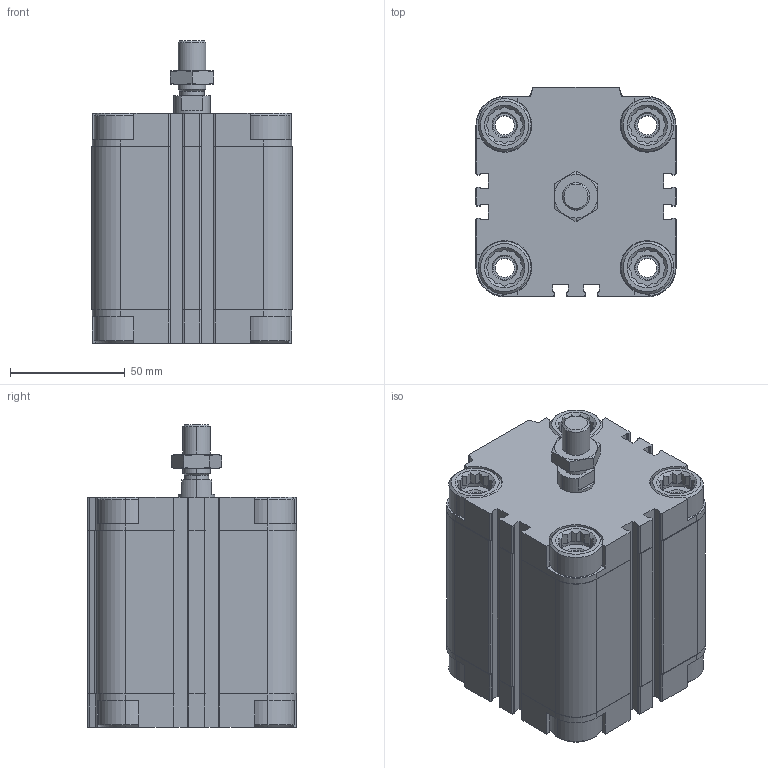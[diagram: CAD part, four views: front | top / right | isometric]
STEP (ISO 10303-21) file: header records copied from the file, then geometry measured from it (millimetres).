
FILE_DESCRIPTION (( 'STEP AP203' ), '1' );
FILE_NAME ('CDVU63-50.STEP', '2020-03-19T11:38:39', ( '' ), ( '' ), 'SwSTEP 2.0', 'SolidWorks 2019', '' );
FILE_SCHEMA (( 'CONFIG_CONTROL_DESIGN' ));
Length unit declared in the file: millimetre
Products named in the file (1): CDVU63-50
Bounding box: 87 x 91 x 131.5 mm (x, y, z)
Volume: 531708.5 mm3; surface area: 113272.9 mm2
Topology: 3 solids, 3 shells, 627 faces, 1672 edges, 1094 vertices
Faces by surface type: plane 373, cylinder 184, cone 70
Entity records: 20051 total; most frequent: CARTESIAN_POINT 4314, ORIENTED_EDGE 3336, DIRECTION 3172, EDGE_CURVE 1668, VERTEX_POINT 1094, AXIS2_PLACEMENT_3D 1080, VECTOR 1012, LINE 1012
